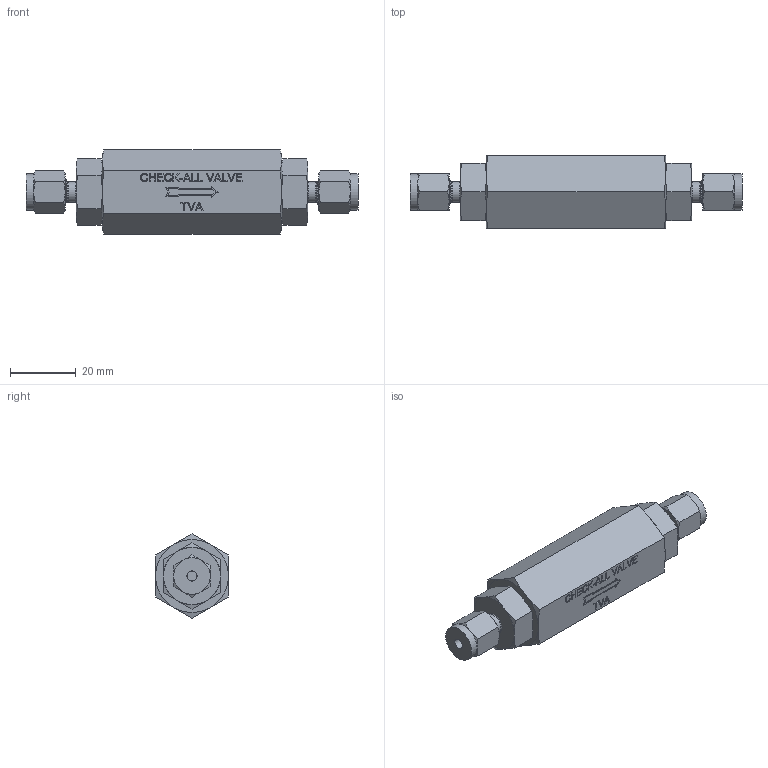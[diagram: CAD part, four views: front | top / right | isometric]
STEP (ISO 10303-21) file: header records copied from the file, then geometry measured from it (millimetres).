
FILE_DESCRIPTION(/* description */ ('Unknown'),/* implementation_level */ '2;1');
FILE_NAME(/* name */ 'TVA',/* time_stamp */ '2017-01-12T09:34:10-06:00',/* author */ ('Unknown'),/* organization */ ('Unknown'),/* preprocessor_version */ 'ST-DEVELOPER v16.7',/* originating_system */ 'DEX',/* authorisation */ $);
FILE_SCHEMA (('AUTOMOTIVE_DESIGN {1 0 10303 214 3 1 1}'));
Length unit declared in the file: millimetre
Products named in the file (1): TVA
Bounding box: 101.35 x 22.23 x 25.66 mm (x, y, z)
Volume: 30106.3 mm3; surface area: 7696.2 mm2
Topology: 1 solids, 1 shells, 370 faces, 962 edges, 576 vertices
Faces by surface type: plane 210, bspline 68, cone 52, torus 30, cylinder 10
Full cylindrical faces by diameter (mm): 3.175 x2, 6.248 x2, 11.113 x2
Entity records: 14886 total; most frequent: CARTESIAN_POINT 4545, ORIENTED_EDGE 1784, DIRECTION 1264, EDGE_CURVE 892, VERTEX_POINT 568, AXIS2_PLACEMENT_3D 449, EDGE_LOOP 414, FACE_BOUND 414
